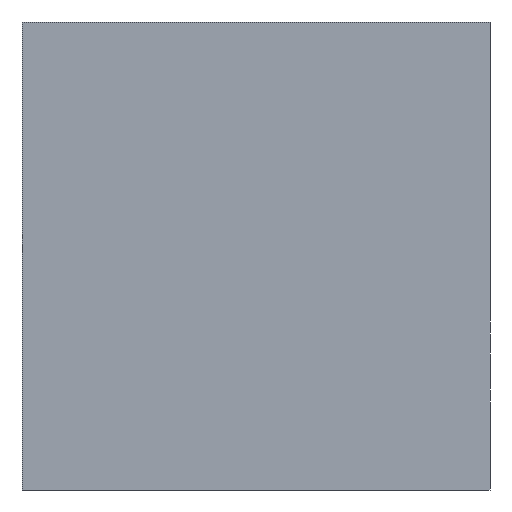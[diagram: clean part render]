
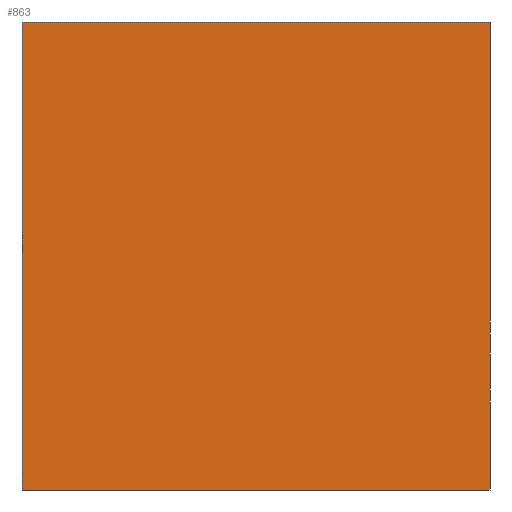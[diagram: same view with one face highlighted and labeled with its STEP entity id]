
A CAD part, left-side view. The second image highlights one B-rep face of the part: STEP entity #863.
In plain terms, the highlighted planar face has unit normal (-1, 0, 0).
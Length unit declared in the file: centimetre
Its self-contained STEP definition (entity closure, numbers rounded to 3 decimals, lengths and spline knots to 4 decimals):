
#6 = DIRECTION ( 'NONE',  ( 0., 0., -1. ) ) ;
#9 = CARTESIAN_POINT ( 'NONE',  ( 0., 0., 1000. ) ) ;
#15 = CARTESIAN_POINT ( 'NONE',  ( 0., 0., 0. ) ) ;
#46 = VERTEX_POINT ( 'NONE', #189 ) ;
#71 = EDGE_CURVE ( 'NONE', #46, #235, #403, .T. ) ;
#89 = CARTESIAN_POINT ( 'NONE',  ( 0., 1000., 0. ) ) ;
#136 = VECTOR ( 'NONE', #6, 100. ) ;
#177 = EDGE_CURVE ( 'NONE', #46, #274, #774, .T. ) ;
#189 = CARTESIAN_POINT ( 'NONE',  ( 0., 1000., 1000. ) ) ;
#219 = ORIENTED_EDGE ( 'NONE', *, *, #71, .F. ) ;
#233 = LINE ( 'NONE', #89, #418 ) ;
#235 = VERTEX_POINT ( 'NONE', #9 ) ;
#238 = EDGE_CURVE ( 'NONE', #235, #606, #710, .T. ) ;
#274 = VERTEX_POINT ( 'NONE', #581 ) ;
#283 = CARTESIAN_POINT ( 'NONE',  ( 0., 1000., 1000. ) ) ;
#312 = DIRECTION ( 'NONE',  ( 0., -1., 0. ) ) ;
#313 = ORIENTED_EDGE ( 'NONE', *, *, #177, .T. ) ;
#334 = DIRECTION ( 'NONE',  ( 0., -1., 0. ) ) ;
#339 = EDGE_LOOP ( 'NONE', ( #588, #359, #219, #313 ) ) ;
#359 = ORIENTED_EDGE ( 'NONE', *, *, #238, .F. ) ;
#403 = LINE ( 'NONE', #666, #759 ) ;
#418 = VECTOR ( 'NONE', #312, 100. ) ;
#445 = AXIS2_PLACEMENT_3D ( 'NONE', #283, #830, #765 ) ;
#581 = CARTESIAN_POINT ( 'NONE',  ( 0., 1000., 0. ) ) ;
#588 = ORIENTED_EDGE ( 'NONE', *, *, #622, .T. ) ;
#606 = VERTEX_POINT ( 'NONE', #15 ) ;
#622 = EDGE_CURVE ( 'NONE', #274, #606, #233, .T. ) ;
#628 = PLANE ( 'NONE',  #445 ) ;
#639 = CARTESIAN_POINT ( 'NONE',  ( 0., 1000., 1000. ) ) ;
#644 = DIRECTION ( 'NONE',  ( 0., 0., -1. ) ) ;
#646 = CARTESIAN_POINT ( 'NONE',  ( 0., 0., 1000. ) ) ;
#666 = CARTESIAN_POINT ( 'NONE',  ( 0., 1000., 1000. ) ) ;
#690 = FACE_OUTER_BOUND ( 'NONE', #339, .T. ) ;
#710 = LINE ( 'NONE', #646, #724 ) ;
#724 = VECTOR ( 'NONE', #644, 100. ) ;
#759 = VECTOR ( 'NONE', #334, 100. ) ;
#765 = DIRECTION ( 'NONE',  ( 0., 0., -1. ) ) ;
#774 = LINE ( 'NONE', #639, #136 ) ;
#830 = DIRECTION ( 'NONE',  ( 1., 0., 0. ) ) ;
#863 = ADVANCED_FACE ( 'NONE', ( #690 ), #628, .F. ) ;
